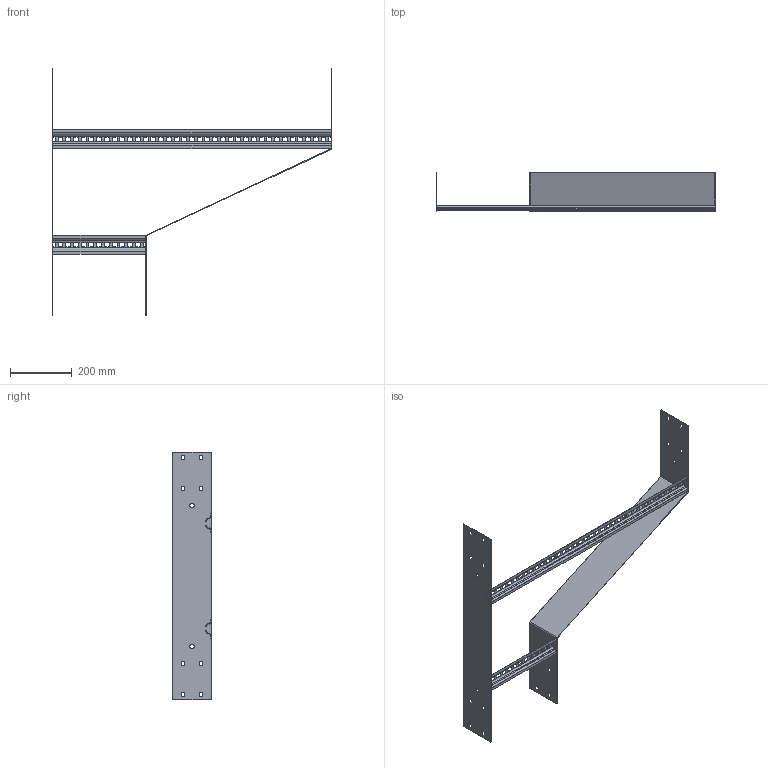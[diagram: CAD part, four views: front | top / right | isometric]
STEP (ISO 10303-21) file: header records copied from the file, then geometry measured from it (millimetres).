
FILE_DESCRIPTION (( 'STEP AP203' ), '1' );
FILE_NAME ('N3 LHR900300.STEP', '2024-08-27T06:20:54', ( '' ), ( '' ), 'SwSTEP 2.0', 'SolidWorks 2023', '' );
FILE_SCHEMA (( 'CONFIG_CONTROL_DESIGN' ));
Length unit declared in the file: millimetre
Products named in the file (5): Ladder Rung_Ladder Rung -  300mm; N3 Back Plate_800; N3 LHR900300; Ladder Rung_Ladder Rung -  900mm; N3 Reducer side plate_LHR300x900
Assembly tree (4 placements, depth 2):
  N3 LHR900300
    N3 Reducer side plate_LHR300x900
    Ladder Rung_Ladder Rung -  300mm
    Ladder Rung_Ladder Rung -  900mm
    N3 Back Plate_800
Bounding box: 904 x 124 x 800 mm (x, y, z)
Volume: 613610.3 mm3; surface area: 665113.4 mm2
Topology: 4 solids, 4 shells, 376 faces, 1024 edges, 656 vertices
Faces by surface type: plane 348, cylinder 28
Entity records: 12351 total; most frequent: CARTESIAN_POINT 2063, ORIENTED_EDGE 2048, DIRECTION 1846, EDGE_CURVE 1024, LINE 968, VECTOR 968, VERTEX_POINT 656, EDGE_LOOP 508
